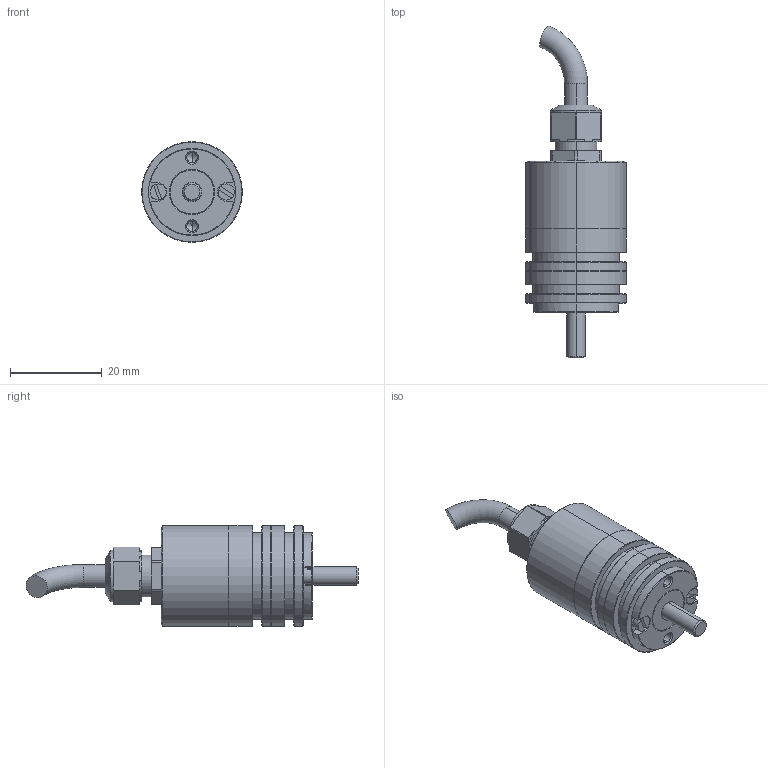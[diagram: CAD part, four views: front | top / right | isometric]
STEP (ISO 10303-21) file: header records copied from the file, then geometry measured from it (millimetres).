
FILE_DESCRIPTION (( 'STEP AP203' ), '1' );
FILE_NAME ('re22ip68axial-3d.step', '2006-09-05T08:47:45', ( '' ), ( '' ), 'SwSTEP 1.0', 'SolidWorks 1999313', '' );
FILE_SCHEMA (( 'CONFIG_CONTROL_DESIGN' ));
Length unit declared in the file: metre
Products named in the file (1): 1
Bounding box: 22 x 72.5 x 22 mm (x, y, z)
Volume: 13513.8 mm3; surface area: 4406.8 mm2
Topology: 1 solids, 1 shells, 163 faces, 389 edges, 244 vertices
Faces by surface type: plane 70, cylinder 61, cone 31, torus 1
Entity records: 4752 total; most frequent: DIRECTION 884, CARTESIAN_POINT 804, ORIENTED_EDGE 768, EDGE_CURVE 384, AXIS2_PLACEMENT_3D 340, VERTEX_POINT 244, LINE 204, VECTOR 204
